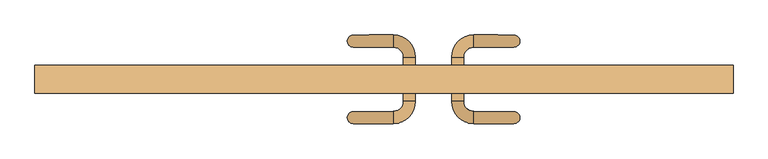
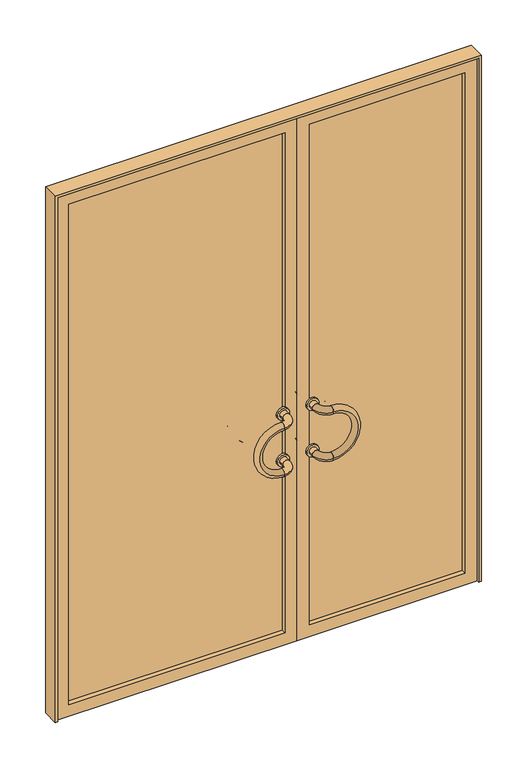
"""IFC4 building model written with IfcOpenShell, lengths in millimetres: door geometry, Tierce Vitrée grand vantail 93 : Double Vitrée."""

from ifc_helpers import new_model, si_unit, point, frame, frame_2d, origin, place, context, project, spatial, polyline, circle_curve, ellipse_curve, trimmed, segment, composite_curve, outline, extrude, source, transform, mapped, element, save
from ifc_brep_helpers import plane_surface, revolved_surface, advanced_brep


def door_330f6cdc(model_context):
    return source(origin(), model_context, "Body", "SolidModel", [
        extrude(outline(composite_curve([segment(trimmed(circle_curve(frame_2d((1000.0, 63.0)), 25.0), [point((1000.0, 88.0))], [point((1000.0, 38.0))], False, "CARTESIAN"), True, "CONTINUOUS"), segment(trimmed(circle_curve(frame_2d((1000.0, 63.0)), 25.0), [point((1000.0, 38.0))], [point((1000.0, 88.0))], False, "CARTESIAN"), True, "CONTINUOUS")], self_intersect=False), holes=[composite_curve([segment(trimmed(circle_curve(frame_2d((1000.0, 63.0)), 15.0), [point((1000.0, 78.0))], [point((1000.0, 48.0))], True, "CARTESIAN"), True, "CONTINUOUS"), segment(trimmed(circle_curve(frame_2d((1000.0, 63.0)), 15.0), [point((1000.0, 48.0))], [point((1000.0, 78.0))], True, "CARTESIAN"), True, "CONTINUOUS")], self_intersect=False)]), frame((0.0, 35.0, 0.0), z_axis=(0.0, 1.0, 0.0), x_axis=(0.0, 0.0, 1.0)), (0.0, 0.0, 1.0), 8.0),
        extrude(outline(composite_curve([segment(trimmed(circle_curve(frame_2d((800.0, 63.0)), 25.0), [point((800.0, 88.0))], [point((800.0, 38.0))], False, "CARTESIAN"), True, "CONTINUOUS"), segment(trimmed(circle_curve(frame_2d((800.0, 63.0)), 25.0), [point((800.0, 38.0))], [point((800.0, 88.0))], False, "CARTESIAN"), True, "CONTINUOUS")], self_intersect=False), holes=[composite_curve([segment(trimmed(circle_curve(frame_2d((800.0, 63.0)), 15.0), [point((800.0, 78.0))], [point((800.0, 48.0))], True, "CARTESIAN"), True, "CONTINUOUS"), segment(trimmed(circle_curve(frame_2d((800.0, 63.0)), 15.0), [point((800.0, 48.0))], [point((800.0, 78.0))], True, "CARTESIAN"), True, "CONTINUOUS")], self_intersect=False)]), frame((0.0, 35.0, 0.0), z_axis=(0.0, 1.0, 0.0), x_axis=(0.0, 0.0, 1.0)), (0.0, 0.0, 1.0), 8.0),
        extrude(outline(composite_curve([segment(trimmed(circle_curve(frame_2d((1000.0, 63.0)), 25.0), [point((1000.0, 88.0))], [point((1000.0, 38.0))], False, "CARTESIAN"), True, "CONTINUOUS"), segment(trimmed(circle_curve(frame_2d((1000.0, 63.0)), 25.0), [point((1000.0, 38.0))], [point((1000.0, 88.0))], False, "CARTESIAN"), True, "CONTINUOUS")], self_intersect=False), holes=[composite_curve([segment(trimmed(circle_curve(frame_2d((1000.0, 63.0)), 15.0), [point((1000.0, 78.0))], [point((1000.0, 48.0))], True, "CARTESIAN"), True, "CONTINUOUS"), segment(trimmed(circle_curve(frame_2d((1000.0, 63.0)), 15.0), [point((1000.0, 48.0))], [point((1000.0, 78.0))], True, "CARTESIAN"), True, "CONTINUOUS")], self_intersect=False)]), frame((0.0, -23.0, 0.0), z_axis=(0.0, 1.0, 0.0), x_axis=(0.0, 0.0, 1.0)), (0.0, 0.0, 1.0), 8.0),
        extrude(outline(composite_curve([segment(trimmed(circle_curve(frame_2d((800.0, 63.0)), 25.0), [point((800.0, 88.0))], [point((800.0, 38.0))], False, "CARTESIAN"), True, "CONTINUOUS"), segment(trimmed(circle_curve(frame_2d((800.0, 63.0)), 25.0), [point((800.0, 38.0))], [point((800.0, 88.0))], False, "CARTESIAN"), True, "CONTINUOUS")], self_intersect=False), holes=[composite_curve([segment(trimmed(circle_curve(frame_2d((800.0, 63.0)), 15.0), [point((800.0, 78.0))], [point((800.0, 48.0))], True, "CARTESIAN"), True, "CONTINUOUS"), segment(trimmed(circle_curve(frame_2d((800.0, 63.0)), 15.0), [point((800.0, 48.0))], [point((800.0, 78.0))], True, "CARTESIAN"), True, "CONTINUOUS")], self_intersect=False)]), frame((0.0, -23.0, 0.0), z_axis=(0.0, 1.0, 0.0), x_axis=(0.0, 0.0, 1.0)), (0.0, 0.0, 1.0), 8.0),
        advanced_brep(
        [(23.0, 120.0, 1000.0), (23.0, 90.0, 1000.0), (23.0, 120.0, 800.0), (23.0, 90.0, 800.0)],
        [
            (0, 1, circle_curve(frame((23.0, 105.0, 1000.0), z_axis=(1.0, 0.0, 0.0), x_axis=(0.0, -1.0, 0.0)), 15.0)),
            (1, 0, circle_curve(frame((23.0, 105.0, 1000.0), z_axis=(1.0, 0.0, 0.0), x_axis=(0.0, -1.0, 0.0)), 15.0)),
            (2, 3, circle_curve(frame((23.0, 105.0, 800.0), z_axis=(1.0, 0.0, 0.0), x_axis=(0.0, -1.0, 0.0)), 15.0)),
            (3, 2, circle_curve(frame((23.0, 105.0, 800.0), z_axis=(1.0, 0.0, 0.0), x_axis=(0.0, -1.0, 0.0)), 15.0)),
            (2, 0, circle_curve(frame((23.0, 120.0, 900.0), z_axis=(0.0, 1.0, 0.0), x_axis=(0.0, 0.0, 1.0)), 100.0)),
            (1, 3, circle_curve(frame((23.0, 90.0, 900.0), z_axis=(0.0, -1.0, 0.0), x_axis=(0.0, 0.0, 1.0)), 100.0)),
        ],
        [
            plane_surface(frame((23.0, 105.0, 900.0), z_axis=(1.0, 0.0, 0.0), x_axis=(0.0, 0.0, 1.0))),
            plane_surface(frame((23.0, 105.0, 900.0), z_axis=(1.0, 0.0, 0.0), x_axis=(0.0, 0.0, -1.0))),
            revolved_surface(trimmed(ellipse_curve(frame((23.0, 105.0, 1000.0), z_axis=(-1.0, 0.0, 0.0), x_axis=(0.0, -1.0, 0.0)), 15.0, 15.0), [point((23.0, 120.0, 1000.0))], [point((23.0, 90.0, 1000.0))], True, "CARTESIAN"), (23.0, 105.0, 900.0), (0.0, 1.0, 0.0)),
            revolved_surface(trimmed(ellipse_curve(frame((23.0, 105.0, 1000.0), z_axis=(-1.0, 0.0, 0.0), x_axis=(0.0, -1.0, 0.0)), 15.0, 15.0), [point((23.0, 90.0, 1000.0))], [point((23.0, 120.0, 1000.0))], True, "CARTESIAN"), (23.0, 105.0, 900.0), (0.0, 1.0, 0.0)),
        ],
        [
            (0, [[1, 2]]),
            (1, [[3, 4]]),
            (2, [[-3, 5, -2, 6]]),
            (3, [[-4, -6, -1, -5]]),
        ],
    ),
        advanced_brep(
        [(48.0, 65.0, 1000.0), (78.0, 65.0, 1000.0), (23.0, 90.0, 1000.0), (23.0, 120.0, 1000.0)],
        [
            (0, 1, circle_curve(frame((63.0, 65.0, 1000.0), z_axis=(0.0, -1.0, 0.0), x_axis=(1.0, 0.0, 0.0)), 15.0)),
            (1, 0, circle_curve(frame((63.0, 65.0, 1000.0), z_axis=(0.0, -1.0, 0.0), x_axis=(1.0, 0.0, 0.0)), 15.0)),
            (2, 3, circle_curve(frame((23.0, 105.0, 1000.0), z_axis=(-1.0, 0.0, 0.0), x_axis=(0.0, 1.0, 0.0)), 15.0)),
            (3, 2, circle_curve(frame((23.0, 105.0, 1000.0), z_axis=(-1.0, 0.0, 0.0), x_axis=(0.0, 1.0, 0.0)), 15.0)),
            (2, 0, circle_curve(frame((23.0, 65.0, 1000.0), z_axis=(0.0, 0.0, -1.0), x_axis=(1.0, 0.0, 0.0)), 25.0)),
            (1, 3, circle_curve(frame((23.0, 65.0, 1000.0), z_axis=(0.0, 0.0, 1.0), x_axis=(1.0, 0.0, 0.0)), 55.0)),
        ],
        [
            plane_surface(frame((23.0, 65.0, 1000.0), z_axis=(0.0, -1.0, 0.0), x_axis=(1.0, 0.0, 0.0))),
            plane_surface(frame((23.0, 65.0, 1000.0), z_axis=(-1.0, 0.0, 0.0), x_axis=(0.0, 1.0, 0.0))),
            revolved_surface(trimmed(ellipse_curve(frame((63.0, 65.0, 1000.0), z_axis=(0.0, 1.0, 0.0), x_axis=(1.0, 0.0, 0.0)), 15.0, 15.0), [point((48.0, 65.0, 1000.0))], [point((78.0, 65.0, 1000.0))], True, "CARTESIAN"), (23.0, 65.0, 1000.0), (0.0, 0.0, -1.0)),
            revolved_surface(trimmed(ellipse_curve(frame((63.0, 65.0, 1000.0), z_axis=(0.0, 1.0, 0.0), x_axis=(1.0, 0.0, 0.0)), 15.0, 15.0), [point((78.0, 65.0, 1000.0))], [point((48.0, 65.0, 1000.0))], True, "CARTESIAN"), (23.0, 65.0, 1000.0), (0.0, 0.0, -1.0)),
        ],
        [
            (0, [[1, 2]]),
            (1, [[3, 4]]),
            (2, [[-3, 5, -2, 6]]),
            (3, [[-4, -6, -1, -5]]),
        ],
    ),
        advanced_brep(
        [(48.0, 65.0, 800.0), (78.0, 65.0, 800.0), (23.0, 90.0, 800.0), (23.0, 120.0, 800.0)],
        [
            (0, 1, circle_curve(frame((63.0, 65.0, 800.0), z_axis=(0.0, -1.0, 0.0), x_axis=(1.0, 0.0, 0.0)), 15.0)),
            (1, 0, circle_curve(frame((63.0, 65.0, 800.0), z_axis=(0.0, -1.0, 0.0), x_axis=(1.0, 0.0, 0.0)), 15.0)),
            (2, 3, circle_curve(frame((23.0, 105.0, 800.0), z_axis=(-1.0, 0.0, 0.0), x_axis=(0.0, 1.0, 0.0)), 15.0)),
            (3, 2, circle_curve(frame((23.0, 105.0, 800.0), z_axis=(-1.0, 0.0, 0.0), x_axis=(0.0, 1.0, 0.0)), 15.0)),
            (2, 0, circle_curve(frame((23.0, 65.0, 800.0), z_axis=(0.0, 0.0, -1.0), x_axis=(1.0, 0.0, 0.0)), 25.0)),
            (1, 3, circle_curve(frame((23.0, 65.0, 800.0), z_axis=(0.0, 0.0, 1.0), x_axis=(1.0, 0.0, 0.0)), 55.0)),
        ],
        [
            plane_surface(frame((23.0, 65.0, 1000.0), z_axis=(0.0, -1.0, 0.0), x_axis=(1.0, 0.0, 0.0))),
            plane_surface(frame((23.0, 65.0, 1000.0), z_axis=(-1.0, 0.0, 0.0), x_axis=(0.0, 1.0, 0.0))),
            revolved_surface(trimmed(ellipse_curve(frame((63.0, 65.0, 800.0), z_axis=(0.0, 1.0, 0.0), x_axis=(1.0, 0.0, 0.0)), 15.0, 15.0), [point((48.0, 65.0, 800.0))], [point((78.0, 65.0, 800.0))], True, "CARTESIAN"), (23.0, 65.0, 1000.0), (0.0, 0.0, -1.0)),
            revolved_surface(trimmed(ellipse_curve(frame((63.0, 65.0, 800.0), z_axis=(0.0, 1.0, 0.0), x_axis=(1.0, 0.0, 0.0)), 15.0, 15.0), [point((78.0, 65.0, 800.0))], [point((48.0, 65.0, 800.0))], True, "CARTESIAN"), (23.0, 65.0, 1000.0), (0.0, 0.0, -1.0)),
        ],
        [
            (0, [[1, 2]]),
            (1, [[3, 4]]),
            (2, [[-3, 5, -2, 6]]),
            (3, [[-4, -6, -1, -5]]),
        ],
    ),
        extrude(outline(composite_curve([segment(trimmed(circle_curve(frame_2d((1000.0, 63.0)), 15.0), [point((1000.0, 78.0))], [point((1000.0, 48.0))], False, "CARTESIAN"), True, "CONTINUOUS"), segment(trimmed(circle_curve(frame_2d((1000.0, 63.0)), 15.0), [point((1000.0, 48.0))], [point((1000.0, 78.0))], False, "CARTESIAN"), True, "CONTINUOUS")], self_intersect=False)), frame((0.0, 35.0, 0.0), z_axis=(0.0, 1.0, 0.0), x_axis=(0.0, 0.0, 1.0)), (0.0, 0.0, 1.0), 30.0),
        extrude(outline(composite_curve([segment(trimmed(circle_curve(frame_2d((800.0, 63.0)), 15.0), [point((800.0, 78.0))], [point((800.0, 48.0))], False, "CARTESIAN"), True, "CONTINUOUS"), segment(trimmed(circle_curve(frame_2d((800.0, 63.0)), 15.0), [point((800.0, 48.0))], [point((800.0, 78.0))], False, "CARTESIAN"), True, "CONTINUOUS")], self_intersect=False)), frame((0.0, 35.0, 0.0), z_axis=(0.0, 1.0, 0.0), x_axis=(0.0, 0.0, 1.0)), (0.0, 0.0, 1.0), 30.0),
        advanced_brep(
        [(23.0, -70.0, 1000.0), (23.0, -100.0, 1000.0), (23.0, -70.0, 800.0), (23.0, -100.0, 800.0)],
        [
            (0, 1, circle_curve(frame((23.0, -85.0, 1000.0), z_axis=(1.0, 0.0, 0.0), x_axis=(0.0, -1.0, 0.0)), 15.0)),
            (1, 0, circle_curve(frame((23.0, -85.0, 1000.0), z_axis=(1.0, 0.0, 0.0), x_axis=(0.0, -1.0, 0.0)), 15.0)),
            (2, 3, circle_curve(frame((23.0, -85.0, 800.0), z_axis=(1.0, 0.0, 0.0), x_axis=(0.0, -1.0, 0.0)), 15.0)),
            (3, 2, circle_curve(frame((23.0, -85.0, 800.0), z_axis=(1.0, 0.0, 0.0), x_axis=(0.0, -1.0, 0.0)), 15.0)),
            (2, 0, circle_curve(frame((23.0, -70.0, 900.0), z_axis=(0.0, 1.0, 0.0), x_axis=(0.0, 0.0, 1.0)), 100.0)),
            (1, 3, circle_curve(frame((23.0, -100.0, 900.0), z_axis=(0.0, -1.0, 0.0), x_axis=(0.0, 0.0, 1.0)), 100.0)),
        ],
        [
            plane_surface(frame((23.0, -100.0, 900.0), z_axis=(1.0, 0.0, 0.0), x_axis=(0.0, 0.0, 1.0))),
            plane_surface(frame((23.0, -100.0, 900.0), z_axis=(1.0, 0.0, 0.0), x_axis=(0.0, 0.0, -1.0))),
            revolved_surface(trimmed(ellipse_curve(frame((23.0, -85.0, 1000.0), z_axis=(-1.0, 0.0, 0.0), x_axis=(0.0, -1.0, 0.0)), 15.0, 15.0), [point((23.0, -70.0, 1000.0))], [point((23.0, -100.0, 1000.0))], True, "CARTESIAN"), (23.0, -100.0, 900.0), (0.0, 1.0, 0.0)),
            revolved_surface(trimmed(ellipse_curve(frame((23.0, -85.0, 1000.0), z_axis=(-1.0, 0.0, 0.0), x_axis=(0.0, -1.0, 0.0)), 15.0, 15.0), [point((23.0, -100.0, 1000.0))], [point((23.0, -70.0, 1000.0))], True, "CARTESIAN"), (23.0, -100.0, 900.0), (0.0, 1.0, 0.0)),
        ],
        [
            (0, [[1, 2]]),
            (1, [[3, 4]]),
            (2, [[-3, 5, -2, 6]]),
            (3, [[-4, -6, -1, -5]]),
        ],
    ),
        advanced_brep(
        [(78.0, -45.0, 1000.0), (48.0, -45.0, 1000.0), (23.0, -100.0, 1000.0), (23.0, -70.0, 1000.0)],
        [
            (0, 1, circle_curve(frame((63.0, -45.0, 1000.0), z_axis=(0.0, 1.0, 0.0), x_axis=(-1.0, 0.0, 0.0)), 15.0)),
            (1, 0, circle_curve(frame((63.0, -45.0, 1000.0), z_axis=(0.0, 1.0, 0.0), x_axis=(-1.0, 0.0, 0.0)), 15.0)),
            (2, 3, circle_curve(frame((23.0, -85.0, 1000.0), z_axis=(-1.0, 0.0, 0.0), x_axis=(0.0, 1.0, 0.0)), 15.0)),
            (3, 2, circle_curve(frame((23.0, -85.0, 1000.0), z_axis=(-1.0, 0.0, 0.0), x_axis=(0.0, 1.0, 0.0)), 15.0)),
            (2, 0, circle_curve(frame((23.0, -45.0, 1000.0), z_axis=(0.0, 0.0, 1.0), x_axis=(1.0, 0.0, 0.0)), 55.0)),
            (1, 3, circle_curve(frame((23.0, -45.0, 1000.0), z_axis=(0.0, 0.0, -1.0), x_axis=(1.0, 0.0, 0.0)), 25.0)),
        ],
        [
            plane_surface(frame((23.0, -45.0, 1000.0), z_axis=(0.0, 1.0, 0.0), x_axis=(1.0, 0.0, 0.0))),
            plane_surface(frame((23.0, -45.0, 1000.0), z_axis=(-1.0, 0.0, 0.0), x_axis=(0.0, -1.0, 0.0))),
            revolved_surface(trimmed(ellipse_curve(frame((63.0, -45.0, 1000.0), z_axis=(0.0, -1.0, 0.0), x_axis=(-1.0, 0.0, 0.0)), 15.0, 15.0), [point((78.0, -45.0, 1000.0))], [point((48.0, -45.0, 1000.0))], True, "CARTESIAN"), (23.0, -45.0, 1000.0), (0.0, 0.0, 1.0)),
            revolved_surface(trimmed(ellipse_curve(frame((63.0, -45.0, 1000.0), z_axis=(0.0, -1.0, 0.0), x_axis=(-1.0, 0.0, 0.0)), 15.0, 15.0), [point((48.0, -45.0, 1000.0))], [point((78.0, -45.0, 1000.0))], True, "CARTESIAN"), (23.0, -45.0, 1000.0), (0.0, 0.0, 1.0)),
        ],
        [
            (0, [[1, 2]]),
            (1, [[3, 4]]),
            (2, [[-3, 5, -2, 6]]),
            (3, [[-4, -6, -1, -5]]),
        ],
    ),
        advanced_brep(
        [(78.0, -45.0, 800.0), (48.0, -45.0, 800.0), (23.0, -100.0, 800.0), (23.0, -70.0, 800.0)],
        [
            (0, 1, circle_curve(frame((63.0, -45.0, 800.0), z_axis=(0.0, 1.0, 0.0), x_axis=(-1.0, 0.0, 0.0)), 15.0)),
            (1, 0, circle_curve(frame((63.0, -45.0, 800.0), z_axis=(0.0, 1.0, 0.0), x_axis=(-1.0, 0.0, 0.0)), 15.0)),
            (2, 3, circle_curve(frame((23.0, -85.0, 800.0), z_axis=(-1.0, 0.0, 0.0), x_axis=(0.0, 1.0, 0.0)), 15.0)),
            (3, 2, circle_curve(frame((23.0, -85.0, 800.0), z_axis=(-1.0, 0.0, 0.0), x_axis=(0.0, 1.0, 0.0)), 15.0)),
            (2, 0, circle_curve(frame((23.0, -45.0, 800.0), z_axis=(0.0, 0.0, 1.0), x_axis=(1.0, 0.0, 0.0)), 55.0)),
            (1, 3, circle_curve(frame((23.0, -45.0, 800.0), z_axis=(0.0, 0.0, -1.0), x_axis=(1.0, 0.0, 0.0)), 25.0)),
        ],
        [
            plane_surface(frame((23.0, -45.0, 1000.0), z_axis=(0.0, 1.0, 0.0), x_axis=(1.0, 0.0, 0.0))),
            plane_surface(frame((23.0, -45.0, 1000.0), z_axis=(-1.0, 0.0, 0.0), x_axis=(0.0, -1.0, 0.0))),
            revolved_surface(trimmed(ellipse_curve(frame((63.0, -45.0, 800.0), z_axis=(0.0, -1.0, 0.0), x_axis=(-1.0, 0.0, 0.0)), 15.0, 15.0), [point((78.0, -45.0, 800.0))], [point((48.0, -45.0, 800.0))], True, "CARTESIAN"), (23.0, -45.0, 1000.0), (0.0, 0.0, 1.0)),
            revolved_surface(trimmed(ellipse_curve(frame((63.0, -45.0, 800.0), z_axis=(0.0, -1.0, 0.0), x_axis=(-1.0, 0.0, 0.0)), 15.0, 15.0), [point((48.0, -45.0, 800.0))], [point((78.0, -45.0, 800.0))], True, "CARTESIAN"), (23.0, -45.0, 1000.0), (0.0, 0.0, 1.0)),
        ],
        [
            (0, [[1, 2]]),
            (1, [[3, 4]]),
            (2, [[-3, 5, -2, 6]]),
            (3, [[-4, -6, -1, -5]]),
        ],
    ),
        extrude(outline(composite_curve([segment(trimmed(circle_curve(frame_2d((1000.0, 63.0)), 15.0), [point((1000.0, 78.0))], [point((1000.0, 48.0))], False, "CARTESIAN"), True, "CONTINUOUS"), segment(trimmed(circle_curve(frame_2d((1000.0, 63.0)), 15.0), [point((1000.0, 48.0))], [point((1000.0, 78.0))], False, "CARTESIAN"), True, "CONTINUOUS")], self_intersect=False)), frame((0.0, -45.0, 0.0), z_axis=(0.0, 1.0, 0.0), x_axis=(0.0, 0.0, 1.0)), (0.0, 0.0, 1.0), 30.0),
        extrude(outline(composite_curve([segment(trimmed(circle_curve(frame_2d((800.0, 63.0)), 15.0), [point((800.0, 78.0))], [point((800.0, 48.0))], False, "CARTESIAN"), True, "CONTINUOUS"), segment(trimmed(circle_curve(frame_2d((800.0, 63.0)), 15.0), [point((800.0, 48.0))], [point((800.0, 78.0))], False, "CARTESIAN"), True, "CONTINUOUS")], self_intersect=False)), frame((0.0, -45.0, 0.0), z_axis=(0.0, 1.0, 0.0), x_axis=(0.0, 0.0, 1.0)), (0.0, 0.0, 1.0), 30.0),
        extrude(outline(composite_curve([segment(trimmed(circle_curve(frame_2d((1000.0, 183.0)), 25.0), [point((1000.0, 158.0))], [point((1000.0, 208.0))], False, "CARTESIAN"), True, "CONTINUOUS"), segment(trimmed(circle_curve(frame_2d((1000.0, 183.0)), 25.0), [point((1000.0, 208.0))], [point((1000.0, 158.0))], False, "CARTESIAN"), True, "CONTINUOUS")], self_intersect=False), holes=[composite_curve([segment(trimmed(circle_curve(frame_2d((1000.0, 183.0)), 15.0), [point((1000.0, 168.0))], [point((1000.0, 198.0))], True, "CARTESIAN"), True, "CONTINUOUS"), segment(trimmed(circle_curve(frame_2d((1000.0, 183.0)), 15.0), [point((1000.0, 198.0))], [point((1000.0, 168.0))], True, "CARTESIAN"), True, "CONTINUOUS")], self_intersect=False)]), frame((0.0, 35.0, 0.0), z_axis=(0.0, 1.0, 0.0), x_axis=(0.0, 0.0, 1.0)), (0.0, 0.0, 1.0), 8.0),
        extrude(outline(composite_curve([segment(trimmed(circle_curve(frame_2d((800.0, 183.0)), 25.0), [point((800.0, 158.0))], [point((800.0, 208.0))], False, "CARTESIAN"), True, "CONTINUOUS"), segment(trimmed(circle_curve(frame_2d((800.0, 183.0)), 25.0), [point((800.0, 208.0))], [point((800.0, 158.0))], False, "CARTESIAN"), True, "CONTINUOUS")], self_intersect=False), holes=[composite_curve([segment(trimmed(circle_curve(frame_2d((800.0, 183.0)), 15.0), [point((800.0, 168.0))], [point((800.0, 198.0))], True, "CARTESIAN"), True, "CONTINUOUS"), segment(trimmed(circle_curve(frame_2d((800.0, 183.0)), 15.0), [point((800.0, 198.0))], [point((800.0, 168.0))], True, "CARTESIAN"), True, "CONTINUOUS")], self_intersect=False)]), frame((0.0, 35.0, 0.0), z_axis=(0.0, 1.0, 0.0), x_axis=(0.0, 0.0, 1.0)), (0.0, 0.0, 1.0), 8.0),
        extrude(outline(composite_curve([segment(trimmed(circle_curve(frame_2d((1000.0, 183.0)), 25.0), [point((1000.0, 158.0))], [point((1000.0, 208.0))], False, "CARTESIAN"), True, "CONTINUOUS"), segment(trimmed(circle_curve(frame_2d((1000.0, 183.0)), 25.0), [point((1000.0, 208.0))], [point((1000.0, 158.0))], False, "CARTESIAN"), True, "CONTINUOUS")], self_intersect=False), holes=[composite_curve([segment(trimmed(circle_curve(frame_2d((1000.0, 183.0)), 15.0), [point((1000.0, 168.0))], [point((1000.0, 198.0))], True, "CARTESIAN"), True, "CONTINUOUS"), segment(trimmed(circle_curve(frame_2d((1000.0, 183.0)), 15.0), [point((1000.0, 198.0))], [point((1000.0, 168.0))], True, "CARTESIAN"), True, "CONTINUOUS")], self_intersect=False)]), frame((0.0, -23.0, 0.0), z_axis=(0.0, 1.0, 0.0), x_axis=(0.0, 0.0, 1.0)), (0.0, 0.0, 1.0), 8.0),
        extrude(outline(composite_curve([segment(trimmed(circle_curve(frame_2d((800.0, 183.0)), 25.0), [point((800.0, 158.0))], [point((800.0, 208.0))], False, "CARTESIAN"), True, "CONTINUOUS"), segment(trimmed(circle_curve(frame_2d((800.0, 183.0)), 25.0), [point((800.0, 208.0))], [point((800.0, 158.0))], False, "CARTESIAN"), True, "CONTINUOUS")], self_intersect=False), holes=[composite_curve([segment(trimmed(circle_curve(frame_2d((800.0, 183.0)), 15.0), [point((800.0, 168.0))], [point((800.0, 198.0))], True, "CARTESIAN"), True, "CONTINUOUS"), segment(trimmed(circle_curve(frame_2d((800.0, 183.0)), 15.0), [point((800.0, 198.0))], [point((800.0, 168.0))], True, "CARTESIAN"), True, "CONTINUOUS")], self_intersect=False)]), frame((0.0, -23.0, 0.0), z_axis=(0.0, 1.0, 0.0), x_axis=(0.0, 0.0, 1.0)), (0.0, 0.0, 1.0), 8.0),
        advanced_brep(
        [(223.0, 120.0, 1000.0), (223.0, 90.0, 1000.0), (223.0, 120.0, 800.0), (223.0, 90.0, 800.0)],
        [
            (0, 1, circle_curve(frame((223.0, 105.0, 1000.0), z_axis=(-1.0, 0.0, 0.0), x_axis=(0.0, -1.0, 0.0)), 15.0)),
            (1, 0, circle_curve(frame((223.0, 105.0, 1000.0), z_axis=(-1.0, 0.0, 0.0), x_axis=(0.0, -1.0, 0.0)), 15.0)),
            (2, 3, circle_curve(frame((223.0, 105.0, 800.0), z_axis=(-1.0, 0.0, 0.0), x_axis=(0.0, -1.0, 0.0)), 15.0)),
            (3, 2, circle_curve(frame((223.0, 105.0, 800.0), z_axis=(-1.0, 0.0, 0.0), x_axis=(0.0, -1.0, 0.0)), 15.0)),
            (3, 1, circle_curve(frame((223.0, 90.0, 900.0), z_axis=(0.0, -1.0, 0.0), x_axis=(0.0, 0.0, 1.0)), 100.0)),
            (0, 2, circle_curve(frame((223.0, 120.0, 900.0), z_axis=(0.0, 1.0, 0.0), x_axis=(0.0, 0.0, 1.0)), 100.0)),
        ],
        [
            plane_surface(frame((223.0, 105.0, 900.0), z_axis=(-1.0, 0.0, 0.0), x_axis=(0.0, 0.0, 1.0))),
            plane_surface(frame((223.0, 105.0, 900.0), z_axis=(-1.0, 0.0, 0.0), x_axis=(0.0, 0.0, -1.0))),
            revolved_surface(trimmed(ellipse_curve(frame((223.0, 105.0, 1000.0), z_axis=(-1.0, 0.0, 0.0), x_axis=(0.0, -1.0, 0.0)), 15.0, 15.0), [point((223.0, 120.0, 1000.0))], [point((223.0, 90.0, 1000.0))], True, "CARTESIAN"), (223.0, 105.0, 900.0), (0.0, 1.0, 0.0)),
            revolved_surface(trimmed(ellipse_curve(frame((223.0, 105.0, 1000.0), z_axis=(-1.0, 0.0, 0.0), x_axis=(0.0, -1.0, 0.0)), 15.0, 15.0), [point((223.0, 90.0, 1000.0))], [point((223.0, 120.0, 1000.0))], True, "CARTESIAN"), (223.0, 105.0, 900.0), (0.0, 1.0, 0.0)),
        ],
        [
            (0, [[1, 2]]),
            (1, [[3, 4]]),
            (2, [[5, -1, 6, -4]]),
            (3, [[-6, -2, -5, -3]]),
        ],
    ),
        advanced_brep(
        [(198.0, 65.0, 1000.0), (168.0, 65.0, 1000.0), (223.0, 90.0, 1000.0), (223.0, 120.0, 1000.0)],
        [
            (0, 1, circle_curve(frame((183.0, 65.0, 1000.0), z_axis=(0.0, -1.0, 0.0), x_axis=(-1.0, 0.0, 0.0)), 15.0)),
            (1, 0, circle_curve(frame((183.0, 65.0, 1000.0), z_axis=(0.0, -1.0, 0.0), x_axis=(-1.0, 0.0, 0.0)), 15.0)),
            (2, 3, circle_curve(frame((223.0, 105.0, 1000.0), z_axis=(1.0, 0.0, 0.0), x_axis=(0.0, 1.0, 0.0)), 15.0)),
            (3, 2, circle_curve(frame((223.0, 105.0, 1000.0), z_axis=(1.0, 0.0, 0.0), x_axis=(0.0, 1.0, 0.0)), 15.0)),
            (3, 1, circle_curve(frame((223.0, 65.0, 1000.0), z_axis=(0.0, 0.0, 1.0), x_axis=(-1.0, 0.0, 0.0)), 55.0)),
            (0, 2, circle_curve(frame((223.0, 65.0, 1000.0), z_axis=(0.0, 0.0, -1.0), x_axis=(-1.0, 0.0, 0.0)), 25.0)),
        ],
        [
            plane_surface(frame((223.0, 65.0, 1000.0), z_axis=(0.0, -1.0, 0.0), x_axis=(-1.0, 0.0, 0.0))),
            plane_surface(frame((223.0, 65.0, 1000.0), z_axis=(1.0, 0.0, 0.0), x_axis=(0.0, 1.0, 0.0))),
            revolved_surface(trimmed(ellipse_curve(frame((183.0, 65.0, 1000.0), z_axis=(0.0, -1.0, 0.0), x_axis=(-1.0, 0.0, 0.0)), 15.0, 15.0), [point((198.0, 65.0, 1000.0))], [point((168.0, 65.0, 1000.0))], True, "CARTESIAN"), (223.0, 65.0, 1000.0), (0.0, 0.0, -1.0)),
            revolved_surface(trimmed(ellipse_curve(frame((183.0, 65.0, 1000.0), z_axis=(0.0, -1.0, 0.0), x_axis=(-1.0, 0.0, 0.0)), 15.0, 15.0), [point((168.0, 65.0, 1000.0))], [point((198.0, 65.0, 1000.0))], True, "CARTESIAN"), (223.0, 65.0, 1000.0), (0.0, 0.0, -1.0)),
        ],
        [
            (0, [[1, 2]]),
            (1, [[3, 4]]),
            (2, [[5, -1, 6, -4]]),
            (3, [[-6, -2, -5, -3]]),
        ],
    ),
        advanced_brep(
        [(198.0, 65.0, 800.0), (168.0, 65.0, 800.0), (223.0, 90.0, 800.0), (223.0, 120.0, 800.0)],
        [
            (0, 1, circle_curve(frame((183.0, 65.0, 800.0), z_axis=(0.0, -1.0, 0.0), x_axis=(-1.0, 0.0, 0.0)), 15.0)),
            (1, 0, circle_curve(frame((183.0, 65.0, 800.0), z_axis=(0.0, -1.0, 0.0), x_axis=(-1.0, 0.0, 0.0)), 15.0)),
            (2, 3, circle_curve(frame((223.0, 105.0, 800.0), z_axis=(1.0, 0.0, 0.0), x_axis=(0.0, 1.0, 0.0)), 15.0)),
            (3, 2, circle_curve(frame((223.0, 105.0, 800.0), z_axis=(1.0, 0.0, 0.0), x_axis=(0.0, 1.0, 0.0)), 15.0)),
            (3, 1, circle_curve(frame((223.0, 65.0, 800.0), z_axis=(0.0, 0.0, 1.0), x_axis=(-1.0, 0.0, 0.0)), 55.0)),
            (0, 2, circle_curve(frame((223.0, 65.0, 800.0), z_axis=(0.0, 0.0, -1.0), x_axis=(-1.0, 0.0, 0.0)), 25.0)),
        ],
        [
            plane_surface(frame((223.0, 65.0, 1000.0), z_axis=(0.0, -1.0, 0.0), x_axis=(-1.0, 0.0, 0.0))),
            plane_surface(frame((223.0, 65.0, 1000.0), z_axis=(1.0, 0.0, 0.0), x_axis=(0.0, 1.0, 0.0))),
            revolved_surface(trimmed(ellipse_curve(frame((183.0, 65.0, 800.0), z_axis=(0.0, -1.0, 0.0), x_axis=(-1.0, 0.0, 0.0)), 15.0, 15.0), [point((198.0, 65.0, 800.0))], [point((168.0, 65.0, 800.0))], True, "CARTESIAN"), (223.0, 65.0, 1000.0), (0.0, 0.0, -1.0)),
            revolved_surface(trimmed(ellipse_curve(frame((183.0, 65.0, 800.0), z_axis=(0.0, -1.0, 0.0), x_axis=(-1.0, 0.0, 0.0)), 15.0, 15.0), [point((168.0, 65.0, 800.0))], [point((198.0, 65.0, 800.0))], True, "CARTESIAN"), (223.0, 65.0, 1000.0), (0.0, 0.0, -1.0)),
        ],
        [
            (0, [[1, 2]]),
            (1, [[3, 4]]),
            (2, [[5, -1, 6, -4]]),
            (3, [[-6, -2, -5, -3]]),
        ],
    ),
        extrude(outline(composite_curve([segment(trimmed(circle_curve(frame_2d((1000.0, 183.0)), 15.0), [point((1000.0, 168.0))], [point((1000.0, 198.0))], False, "CARTESIAN"), True, "CONTINUOUS"), segment(trimmed(circle_curve(frame_2d((1000.0, 183.0)), 15.0), [point((1000.0, 198.0))], [point((1000.0, 168.0))], False, "CARTESIAN"), True, "CONTINUOUS")], self_intersect=False)), frame((0.0, 35.0, 0.0), z_axis=(0.0, 1.0, 0.0), x_axis=(0.0, 0.0, 1.0)), (0.0, 0.0, 1.0), 30.0),
        extrude(outline(composite_curve([segment(trimmed(circle_curve(frame_2d((800.0, 183.0)), 15.0), [point((800.0, 168.0))], [point((800.0, 198.0))], False, "CARTESIAN"), True, "CONTINUOUS"), segment(trimmed(circle_curve(frame_2d((800.0, 183.0)), 15.0), [point((800.0, 198.0))], [point((800.0, 168.0))], False, "CARTESIAN"), True, "CONTINUOUS")], self_intersect=False)), frame((0.0, 35.0, 0.0), z_axis=(0.0, 1.0, 0.0), x_axis=(0.0, 0.0, 1.0)), (0.0, 0.0, 1.0), 30.0),
        advanced_brep(
        [(223.0, -70.0, 1000.0), (223.0, -100.0, 1000.0), (223.0, -70.0, 800.0), (223.0, -100.0, 800.0)],
        [
            (0, 1, circle_curve(frame((223.0, -85.0, 1000.0), z_axis=(-1.0, 0.0, 0.0), x_axis=(0.0, -1.0, 0.0)), 15.0)),
            (1, 0, circle_curve(frame((223.0, -85.0, 1000.0), z_axis=(-1.0, 0.0, 0.0), x_axis=(0.0, -1.0, 0.0)), 15.0)),
            (2, 3, circle_curve(frame((223.0, -85.0, 800.0), z_axis=(-1.0, 0.0, 0.0), x_axis=(0.0, -1.0, 0.0)), 15.0)),
            (3, 2, circle_curve(frame((223.0, -85.0, 800.0), z_axis=(-1.0, 0.0, 0.0), x_axis=(0.0, -1.0, 0.0)), 15.0)),
            (3, 1, circle_curve(frame((223.0, -100.0, 900.0), z_axis=(0.0, -1.0, 0.0), x_axis=(0.0, 0.0, 1.0)), 100.0)),
            (0, 2, circle_curve(frame((223.0, -70.0, 900.0), z_axis=(0.0, 1.0, 0.0), x_axis=(0.0, 0.0, 1.0)), 100.0)),
        ],
        [
            plane_surface(frame((223.0, -100.0, 900.0), z_axis=(-1.0, 0.0, 0.0), x_axis=(0.0, 0.0, 1.0))),
            plane_surface(frame((223.0, -100.0, 900.0), z_axis=(-1.0, 0.0, 0.0), x_axis=(0.0, 0.0, -1.0))),
            revolved_surface(trimmed(ellipse_curve(frame((223.0, -85.0, 1000.0), z_axis=(-1.0, 0.0, 0.0), x_axis=(0.0, -1.0, 0.0)), 15.0, 15.0), [point((223.0, -70.0, 1000.0))], [point((223.0, -100.0, 1000.0))], True, "CARTESIAN"), (223.0, -100.0, 900.0), (0.0, 1.0, 0.0)),
            revolved_surface(trimmed(ellipse_curve(frame((223.0, -85.0, 1000.0), z_axis=(-1.0, 0.0, 0.0), x_axis=(0.0, -1.0, 0.0)), 15.0, 15.0), [point((223.0, -100.0, 1000.0))], [point((223.0, -70.0, 1000.0))], True, "CARTESIAN"), (223.0, -100.0, 900.0), (0.0, 1.0, 0.0)),
        ],
        [
            (0, [[1, 2]]),
            (1, [[3, 4]]),
            (2, [[5, -1, 6, -4]]),
            (3, [[-6, -2, -5, -3]]),
        ],
    ),
        advanced_brep(
        [(168.0, -45.0, 1000.0), (198.0, -45.0, 1000.0), (223.0, -100.0, 1000.0), (223.0, -70.0, 1000.0)],
        [
            (0, 1, circle_curve(frame((183.0, -45.0, 1000.0), z_axis=(0.0, 1.0, 0.0), x_axis=(1.0, 0.0, 0.0)), 15.0)),
            (1, 0, circle_curve(frame((183.0, -45.0, 1000.0), z_axis=(0.0, 1.0, 0.0), x_axis=(1.0, 0.0, 0.0)), 15.0)),
            (2, 3, circle_curve(frame((223.0, -85.0, 1000.0), z_axis=(1.0, 0.0, 0.0), x_axis=(0.0, 1.0, 0.0)), 15.0)),
            (3, 2, circle_curve(frame((223.0, -85.0, 1000.0), z_axis=(1.0, 0.0, 0.0), x_axis=(0.0, 1.0, 0.0)), 15.0)),
            (3, 1, circle_curve(frame((223.0, -45.0, 1000.0), z_axis=(0.0, 0.0, -1.0), x_axis=(-1.0, 0.0, 0.0)), 25.0)),
            (0, 2, circle_curve(frame((223.0, -45.0, 1000.0), z_axis=(0.0, 0.0, 1.0), x_axis=(-1.0, 0.0, 0.0)), 55.0)),
        ],
        [
            plane_surface(frame((223.0, -45.0, 1000.0), z_axis=(0.0, 1.0, 0.0), x_axis=(-1.0, 0.0, 0.0))),
            plane_surface(frame((223.0, -45.0, 1000.0), z_axis=(1.0, 0.0, 0.0), x_axis=(0.0, -1.0, 0.0))),
            revolved_surface(trimmed(ellipse_curve(frame((183.0, -45.0, 1000.0), z_axis=(0.0, 1.0, 0.0), x_axis=(1.0, 0.0, 0.0)), 15.0, 15.0), [point((168.0, -45.0, 1000.0))], [point((198.0, -45.0, 1000.0))], True, "CARTESIAN"), (223.0, -45.0, 1000.0), (0.0, 0.0, 1.0)),
            revolved_surface(trimmed(ellipse_curve(frame((183.0, -45.0, 1000.0), z_axis=(0.0, 1.0, 0.0), x_axis=(1.0, 0.0, 0.0)), 15.0, 15.0), [point((198.0, -45.0, 1000.0))], [point((168.0, -45.0, 1000.0))], True, "CARTESIAN"), (223.0, -45.0, 1000.0), (0.0, 0.0, 1.0)),
        ],
        [
            (0, [[1, 2]]),
            (1, [[3, 4]]),
            (2, [[5, -1, 6, -4]]),
            (3, [[-6, -2, -5, -3]]),
        ],
    ),
        advanced_brep(
        [(168.0, -45.0, 800.0), (198.0, -45.0, 800.0), (223.0, -100.0, 800.0), (223.0, -70.0, 800.0)],
        [
            (0, 1, circle_curve(frame((183.0, -45.0, 800.0), z_axis=(0.0, 1.0, 0.0), x_axis=(1.0, 0.0, 0.0)), 15.0)),
            (1, 0, circle_curve(frame((183.0, -45.0, 800.0), z_axis=(0.0, 1.0, 0.0), x_axis=(1.0, 0.0, 0.0)), 15.0)),
            (2, 3, circle_curve(frame((223.0, -85.0, 800.0), z_axis=(1.0, 0.0, 0.0), x_axis=(0.0, 1.0, 0.0)), 15.0)),
            (3, 2, circle_curve(frame((223.0, -85.0, 800.0), z_axis=(1.0, 0.0, 0.0), x_axis=(0.0, 1.0, 0.0)), 15.0)),
            (3, 1, circle_curve(frame((223.0, -45.0, 800.0), z_axis=(0.0, 0.0, -1.0), x_axis=(-1.0, 0.0, 0.0)), 25.0)),
            (0, 2, circle_curve(frame((223.0, -45.0, 800.0), z_axis=(0.0, 0.0, 1.0), x_axis=(-1.0, 0.0, 0.0)), 55.0)),
        ],
        [
            plane_surface(frame((223.0, -45.0, 1000.0), z_axis=(0.0, 1.0, 0.0), x_axis=(-1.0, 0.0, 0.0))),
            plane_surface(frame((223.0, -45.0, 1000.0), z_axis=(1.0, 0.0, 0.0), x_axis=(0.0, -1.0, 0.0))),
            revolved_surface(trimmed(ellipse_curve(frame((183.0, -45.0, 800.0), z_axis=(0.0, 1.0, 0.0), x_axis=(1.0, 0.0, 0.0)), 15.0, 15.0), [point((168.0, -45.0, 800.0))], [point((198.0, -45.0, 800.0))], True, "CARTESIAN"), (223.0, -45.0, 1000.0), (0.0, 0.0, 1.0)),
            revolved_surface(trimmed(ellipse_curve(frame((183.0, -45.0, 800.0), z_axis=(0.0, 1.0, 0.0), x_axis=(1.0, 0.0, 0.0)), 15.0, 15.0), [point((198.0, -45.0, 800.0))], [point((168.0, -45.0, 800.0))], True, "CARTESIAN"), (223.0, -45.0, 1000.0), (0.0, 0.0, 1.0)),
        ],
        [
            (0, [[1, 2]]),
            (1, [[3, 4]]),
            (2, [[5, -1, 6, -4]]),
            (3, [[-6, -2, -5, -3]]),
        ],
    ),
        extrude(outline(composite_curve([segment(trimmed(circle_curve(frame_2d((1000.0, 183.0)), 15.0), [point((1000.0, 168.0))], [point((1000.0, 198.0))], False, "CARTESIAN"), True, "CONTINUOUS"), segment(trimmed(circle_curve(frame_2d((1000.0, 183.0)), 15.0), [point((1000.0, 198.0))], [point((1000.0, 168.0))], False, "CARTESIAN"), True, "CONTINUOUS")], self_intersect=False)), frame((0.0, -45.0, 0.0), z_axis=(0.0, 1.0, 0.0), x_axis=(0.0, 0.0, 1.0)), (0.0, 0.0, 1.0), 30.0),
        extrude(outline(composite_curve([segment(trimmed(circle_curve(frame_2d((800.0, 183.0)), 15.0), [point((800.0, 168.0))], [point((800.0, 198.0))], False, "CARTESIAN"), True, "CONTINUOUS"), segment(trimmed(circle_curve(frame_2d((800.0, 183.0)), 15.0), [point((800.0, 198.0))], [point((800.0, 168.0))], False, "CARTESIAN"), True, "CONTINUOUS")], self_intersect=False)), frame((0.0, -45.0, 0.0), z_axis=(0.0, 1.0, 0.0), x_axis=(0.0, 0.0, 1.0)), (0.0, 0.0, 1.0), 30.0),
        extrude(outline(polyline([(0.0, -867.0), (0.0, -857.0), (2253.05618, -857.0), (2253.05618, 857.0), (0.0, 857.0), (0.0, 867.0), (2263.05618, 867.0), (2263.05618, -867.0), (0.0, -867.0)])), frame((0.0, -25.0, 0.0), z_axis=(0.0, 1.0, 0.0), x_axis=(0.0, 0.0, 1.0)), (0.0, 0.0, 1.0), 70.0),
        extrude(outline(polyline([(807.0, 5.0), (173.0, 5.0), (173.0, 15.0), (807.0, 15.0), (807.0, 5.0)])), frame((0.0, 0.0, 50.0), z_axis=(0.0, 0.0, 1.0), x_axis=(1.0, 0.0, 0.0)), (0.0, 0.0, 1.0), 2153.05618),
        extrude(outline(polyline([(0.0, 857.0), (2253.05618, 857.0), (2253.05618, 123.0), (0.0, 123.0), (0.0, 857.0)]), holes=[polyline([(2203.05618, 807.0), (50.0, 807.0), (50.0, 173.0), (2203.05618, 173.0), (2203.05618, 807.0)])]), frame((0.0, -15.0, 0.0), z_axis=(0.0, 1.0, 0.0), x_axis=(0.0, 0.0, 1.0)), (0.0, 0.0, 1.0), 50.0),
        extrude(outline(polyline([(73.0, 5.0), (-807.0, 5.0), (-807.0, 15.0), (73.0, 15.0), (73.0, 5.0)])), frame((0.0, 0.0, 50.0), z_axis=(0.0, 0.0, 1.0), x_axis=(1.0, 0.0, 0.0)), (0.0, 0.0, 1.0), 2153.05618),
        extrude(outline(polyline([(2253.05618, 123.0), (2253.05618, -857.0), (0.0, -857.0), (0.0, 123.0), (2253.05618, 123.0)]), holes=[polyline([(2203.05618, 73.0), (50.0, 73.0), (50.0, -807.0), (2203.05618, -807.0), (2203.05618, 73.0)])]), frame((0.0, -15.0, 0.0), z_axis=(0.0, 1.0, 0.0), x_axis=(0.0, 0.0, 1.0)), (0.0, 0.0, 1.0), 50.0),
    ])


if __name__ == "__main__":
    model = new_model("IFC4")
    model_context = context("Model", 3, world=origin())
    ifc_project = project(units=[si_unit("LENGTHUNIT", "METRE", prefix="MILLI")], contexts=[model_context])
    site = spatial("IfcSite", under=ifc_project)
    building = spatial("IfcBuilding", under=site)
    placement = place(None, origin())
    door_shape = door_330f6cdc(model_context)
    element("IfcDoor", 1, ObjectType="Tierce Vitrée grand vantail 93 : Double Vitrée", at=placement, inside=building, context=model_context, shape_type="MappedRepresentation", body=[
        mapped(door_shape, transform((0.0, 0.0, 0.0), x_axis=(1.0, 0.0, 0.0), y_axis=(0.0, 1.0, 0.0), z_axis=(0.0, 0.0, 1.0))),
    ])
    save(model, "model.ifc")
